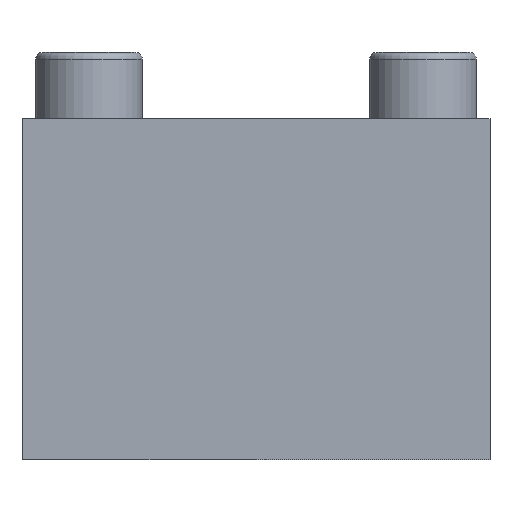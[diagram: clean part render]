
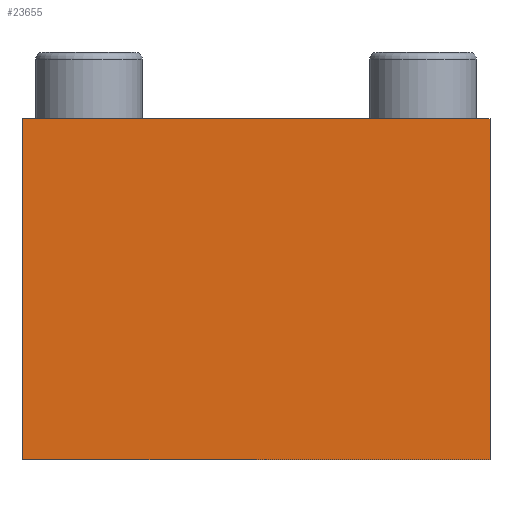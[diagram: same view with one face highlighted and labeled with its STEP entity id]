
A CAD part, front view. The second image highlights one B-rep face of the part: STEP entity #23655.
In plain terms, the highlighted planar face has unit normal (0, -1, 0).
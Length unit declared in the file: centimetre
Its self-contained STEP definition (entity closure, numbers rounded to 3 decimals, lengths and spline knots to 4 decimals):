
#1314=FACE_OUTER_BOUND('',#2680,.T.);
#2680=EDGE_LOOP('',(#15728,#15729,#15730,#15731));
#4002=LINE('',#30513,#6586);
#4670=LINE('',#33189,#7254);
#4673=LINE('',#33195,#7257);
#4674=LINE('',#33196,#7258);
#6586=VECTOR('',#25925,7.);
#7254=VECTOR('',#26637,5.1);
#7257=VECTOR('',#26642,5.1);
#7258=VECTOR('',#26643,7.);
#9170=VERTEX_POINT('',#30510);
#9171=VERTEX_POINT('',#30512);
#10117=VERTEX_POINT('',#33188);
#10119=VERTEX_POINT('',#33194);
#11420=EDGE_CURVE('',#9170,#9171,#4002,.T.);
#12367=EDGE_CURVE('',#9170,#10117,#4670,.T.);
#12370=EDGE_CURVE('',#9171,#10119,#4673,.T.);
#12371=EDGE_CURVE('',#10119,#10117,#4674,.T.);
#15728=ORIENTED_EDGE('',*,*,#12370,.F.);
#15729=ORIENTED_EDGE('',*,*,#11420,.F.);
#15730=ORIENTED_EDGE('',*,*,#12367,.T.);
#15731=ORIENTED_EDGE('',*,*,#12371,.F.);
#21489=PLANE('',#24942);
#23655=ADVANCED_FACE('',(#1314),#21489,.T.);
#24942=AXIS2_PLACEMENT_3D('',#33193,#26640,#26641);
#25925=DIRECTION('',(1.,0.,0.));
#26637=DIRECTION('',(0.,0.,-1.));
#26640=DIRECTION('center_axis',(0.,-1.,0.));
#26641=DIRECTION('ref_axis',(-1.,0.,0.));
#26642=DIRECTION('',(0.,0.,-1.));
#26643=DIRECTION('',(-1.,0.,0.));
#30510=CARTESIAN_POINT('',(-3.5,-15.5,4.1));
#30512=CARTESIAN_POINT('',(3.5,-15.5,4.1));
#30513=CARTESIAN_POINT('',(3.5,-15.5,4.1));
#33188=CARTESIAN_POINT('',(-3.5,-15.5,-1.));
#33189=CARTESIAN_POINT('',(-3.5,-15.5,0.));
#33193=CARTESIAN_POINT('Origin',(3.5,-15.5,3.1));
#33194=CARTESIAN_POINT('',(3.5,-15.5,-1.));
#33195=CARTESIAN_POINT('',(3.5,-15.5,0.));
#33196=CARTESIAN_POINT('',(3.5,-15.5,-1.));
